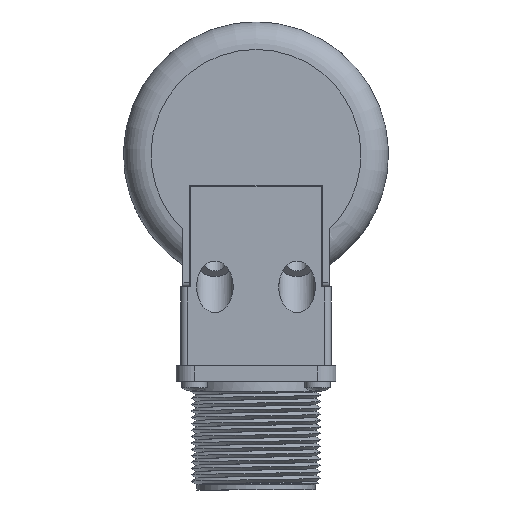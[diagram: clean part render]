
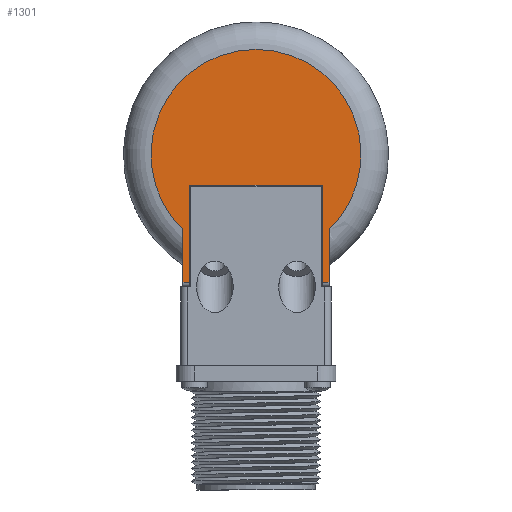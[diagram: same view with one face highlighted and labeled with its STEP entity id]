
A CAD part, left-side view. The second image highlights one B-rep face of the part: STEP entity #1301.
In plain terms, the highlighted planar face has unit normal (-1, 0, 0).
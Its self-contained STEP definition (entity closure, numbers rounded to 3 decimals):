
#1301 = ADVANCED_FACE( '', ( #2856 ), #2857, .T. );
#2856 = FACE_OUTER_BOUND( '', #12643, .T. );
#2857 = PLANE( '', #12644 );
#12643 = EDGE_LOOP( '', ( #18681, #18682, #18683, #18684, #18685, #18686, #18687, #18688 ) );
#12644 = AXIS2_PLACEMENT_3D( '', #18689, #18690, #18691 );
#18681 = ORIENTED_EDGE( '', *, *, #23419, .T. );
#18682 = ORIENTED_EDGE( '', *, *, #22743, .T. );
#18683 = ORIENTED_EDGE( '', *, *, #23750, .T. );
#18684 = ORIENTED_EDGE( '', *, *, #23277, .T. );
#18685 = ORIENTED_EDGE( '', *, *, #22730, .F. );
#18686 = ORIENTED_EDGE( '', *, *, #23669, .F. );
#18687 = ORIENTED_EDGE( '', *, *, #22532, .T. );
#18688 = ORIENTED_EDGE( '', *, *, #23751, .T. );
#18689 = CARTESIAN_POINT( '', ( -65.538, 29., -92.368 ) );
#18690 = DIRECTION( '', ( -1., 0., 0. ) );
#18691 = DIRECTION( '', ( 0., 1., 0. ) );
#22532 = EDGE_CURVE( '', #24262, #24266, #24268, .T. );
#22730 = EDGE_CURVE( '', #24604, #24602, #24606, .T. );
#22743 = EDGE_CURVE( '', #24628, #24629, #24630, .T. );
#23277 = EDGE_CURVE( '', #25474, #24602, #25475, .T. );
#23419 = EDGE_CURVE( '', #25671, #24628, #25673, .T. );
#23669 = EDGE_CURVE( '', #24262, #24604, #26012, .T. );
#23750 = EDGE_CURVE( '', #24629, #25474, #26105, .T. );
#23751 = EDGE_CURVE( '', #24266, #25671, #26106, .T. );
#24262 = VERTEX_POINT( '', #27143 );
#24266 = VERTEX_POINT( '', #27148 );
#24268 = LINE( '', #27150, #27151 );
#24602 = VERTEX_POINT( '', #27781 );
#24604 = VERTEX_POINT( '', #27784 );
#24606 = LINE( '', #27787, #27788 );
#24628 = VERTEX_POINT( '', #27818 );
#24629 = VERTEX_POINT( '', #27819 );
#24630 = LINE( '', #27820, #27821 );
#25474 = VERTEX_POINT( '', #30358 );
#25475 = LINE( '', #30359, #30360 );
#25671 = VERTEX_POINT( '', #31426 );
#25673 = CIRCLE( '', #31438, 23. );
#26012 = LINE( '', #32267, #32268 );
#26105 = LINE( '', #32441, #32442 );
#26106 = LINE( '', #32443, #32444 );
#27143 = CARTESIAN_POINT( '', ( -65.538, -14.5, -91.368 ) );
#27148 = CARTESIAN_POINT( '', ( -65.538, -16., -91.368 ) );
#27150 = CARTESIAN_POINT( '', ( -65.538, -16., -91.368 ) );
#27151 = VECTOR( '', #33212, 1000. );
#27781 = CARTESIAN_POINT( '', ( -65.538, 14.5, -70.068 ) );
#27784 = CARTESIAN_POINT( '', ( -65.538, -14.5, -70.068 ) );
#27787 = CARTESIAN_POINT( '', ( -65.538, -14.5, -70.068 ) );
#27788 = VECTOR( '', #33438, 1000. );
#27818 = CARTESIAN_POINT( '', ( -65.538, 16., -79.891 ) );
#27819 = CARTESIAN_POINT( '', ( -65.538, 16., -91.368 ) );
#27820 = CARTESIAN_POINT( '', ( -65.538, 16., -92.368 ) );
#27821 = VECTOR( '', #33451, 1000. );
#30358 = CARTESIAN_POINT( '', ( -65.538, 14.5, -91.368 ) );
#30359 = CARTESIAN_POINT( '', ( -65.538, 14.5, -92.368 ) );
#30360 = VECTOR( '', #33994, 1000. );
#31426 = CARTESIAN_POINT( '', ( -65.538, -16., -79.891 ) );
#31438 = AXIS2_PLACEMENT_3D( '', #34133, #34134, #34135 );
#32267 = CARTESIAN_POINT( '', ( -65.538, -14.5, -92.368 ) );
#32268 = VECTOR( '', #34332, 1000. );
#32441 = CARTESIAN_POINT( '', ( -65.538, 14.5, -91.368 ) );
#32442 = VECTOR( '', #34387, 1000. );
#32443 = CARTESIAN_POINT( '', ( -65.538, -16., -87.555 ) );
#32444 = VECTOR( '', #34388, 1000. );
#33212 = DIRECTION( '', ( 0., -1., 0. ) );
#33438 = DIRECTION( '', ( 0., 1., 0. ) );
#33451 = DIRECTION( '', ( 0., 0., -1. ) );
#33994 = DIRECTION( '', ( 0., 0., 1. ) );
#34133 = CARTESIAN_POINT( '', ( -65.538, 0., -63.368 ) );
#34134 = DIRECTION( '', ( -1., 0., 0. ) );
#34135 = DIRECTION( '', ( 0., -1., 0. ) );
#34332 = DIRECTION( '', ( 0., 0., 1. ) );
#34387 = DIRECTION( '', ( 0., -1., 0. ) );
#34388 = DIRECTION( '', ( 0., 0., 1. ) );
